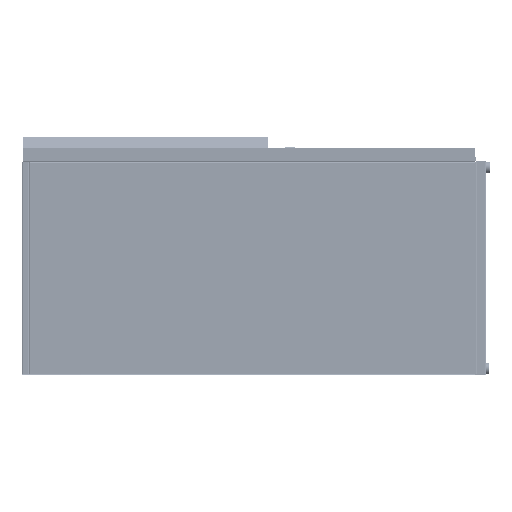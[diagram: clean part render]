
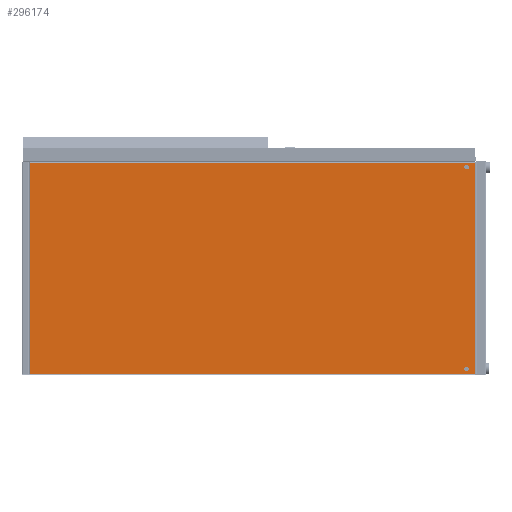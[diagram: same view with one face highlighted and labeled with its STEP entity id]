
A CAD part, left-side view. The second image highlights one B-rep face of the part: STEP entity #296174.
In plain terms, the highlighted planar face has unit normal (-1, 0, 0).
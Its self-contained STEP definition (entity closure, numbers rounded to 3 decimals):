
#771 = VERTEX_POINT ( 'NONE', #401618 ) ;
#14239 = DIRECTION ( 'NONE',  ( 0., 0., -1. ) ) ;
#26931 = EDGE_CURVE ( 'NONE', #771, #320214, #269296, .T. ) ;
#34646 = DIRECTION ( 'NONE',  ( 0., -1., 0. ) ) ;
#36312 = CARTESIAN_POINT ( 'NONE',  ( -1053.027, 1630.523, 473.295 ) ) ;
#38503 = DIRECTION ( 'NONE',  ( 0., 1., 0. ) ) ;
#43176 = VERTEX_POINT ( 'NONE', #341922 ) ;
#48869 = DIRECTION ( 'NONE',  ( -1., 0., 0. ) ) ;
#49767 = CIRCLE ( 'NONE', #129027, 6.55 ) ;
#54521 = EDGE_CURVE ( 'NONE', #354659, #310851, #199967, .T. ) ;
#58040 = DIRECTION ( 'NONE',  ( 0., 0., 1. ) ) ;
#94096 = VECTOR ( 'NONE', #34646, 1000. ) ;
#122165 = CARTESIAN_POINT ( 'NONE',  ( -1053.027, 396.823, 486.495 ) ) ;
#128001 = DIRECTION ( 'NONE',  ( 0., 0., 1. ) ) ;
#129027 = AXIS2_PLACEMENT_3D ( 'NONE', #122165, #389287, #461114 ) ;
#129944 = FACE_BOUND ( 'NONE', #438579, .T. ) ;
#136127 = EDGE_LOOP ( 'NONE', ( #321112, #176396 ) ) ;
#136233 = CARTESIAN_POINT ( 'NONE',  ( -1053.027, 396.823, 1056.495 ) ) ;
#139687 = FACE_OUTER_BOUND ( 'NONE', #335274, .T. ) ;
#140646 = VERTEX_POINT ( 'NONE', #302968 ) ;
#158798 = ORIENTED_EDGE ( 'NONE', *, *, #424468, .F. ) ;
#163145 = ORIENTED_EDGE ( 'NONE', *, *, #54521, .F. ) ;
#168041 = VERTEX_POINT ( 'NONE', #341194 ) ;
#176396 = ORIENTED_EDGE ( 'NONE', *, *, #291009, .F. ) ;
#176974 = PLANE ( 'NONE',  #342877 ) ;
#179052 = AXIS2_PLACEMENT_3D ( 'NONE', #313771, #48869, #385474 ) ;
#186233 = EDGE_CURVE ( 'NONE', #320214, #354659, #342965, .T. ) ;
#189078 = ORIENTED_EDGE ( 'NONE', *, *, #286015, .F. ) ;
#198062 = AXIS2_PLACEMENT_3D ( 'NONE', #136233, #482461, #321957 ) ;
#199967 = LINE ( 'NONE', #353106, #266159 ) ;
#223006 = LINE ( 'NONE', #376071, #94096 ) ;
#234094 = CIRCLE ( 'NONE', #179052, 6.55 ) ;
#239596 = CARTESIAN_POINT ( 'NONE',  ( -1053.027, 373.623, 1070.453 ) ) ;
#261244 = ORIENTED_EDGE ( 'NONE', *, *, #186233, .F. ) ;
#263178 = VERTEX_POINT ( 'NONE', #405448 ) ;
#266159 = VECTOR ( 'NONE', #128001, 1000. ) ;
#266577 = VECTOR ( 'NONE', #14239, 1000. ) ;
#269296 = LINE ( 'NONE', #239596, #266577 ) ;
#286015 = EDGE_CURVE ( 'NONE', #263178, #43176, #234094, .T. ) ;
#290711 = CARTESIAN_POINT ( 'NONE',  ( -1053.027, 1002.073, 771.495 ) ) ;
#291009 = EDGE_CURVE ( 'NONE', #140646, #168041, #417591, .T. ) ;
#293988 = DIRECTION ( 'NONE',  ( -1., 0., 0. ) ) ;
#296174 = ADVANCED_FACE ( 'NONE', ( #129944, #320502, #139687 ), #176974, .T. ) ;
#299422 = AXIS2_PLACEMENT_3D ( 'NONE', #489110, #293988, #333528 ) ;
#302968 = CARTESIAN_POINT ( 'NONE',  ( -1053.027, 396.823, 1063.045 ) ) ;
#309778 = ORIENTED_EDGE ( 'NONE', *, *, #26931, .F. ) ;
#310851 = VERTEX_POINT ( 'NONE', #328424 ) ;
#313771 = CARTESIAN_POINT ( 'NONE',  ( -1053.027, 396.823, 486.495 ) ) ;
#320214 = VERTEX_POINT ( 'NONE', #375247 ) ;
#320502 = FACE_BOUND ( 'NONE', #136127, .T. ) ;
#321112 = ORIENTED_EDGE ( 'NONE', *, *, #429300, .F. ) ;
#321957 = DIRECTION ( 'NONE',  ( 0., 0., 1. ) ) ;
#328424 = CARTESIAN_POINT ( 'NONE',  ( -1053.027, 1630.523, 1069.695 ) ) ;
#333528 = DIRECTION ( 'NONE',  ( 0., 0., 1. ) ) ;
#335274 = EDGE_LOOP ( 'NONE', ( #158798, #163145, #261244, #309778 ) ) ;
#336018 = EDGE_CURVE ( 'NONE', #43176, #263178, #49767, .T. ) ;
#341194 = CARTESIAN_POINT ( 'NONE',  ( -1053.027, 396.823, 1049.945 ) ) ;
#341922 = CARTESIAN_POINT ( 'NONE',  ( -1053.027, 396.823, 479.945 ) ) ;
#342877 = AXIS2_PLACEMENT_3D ( 'NONE', #290711, #441467, #58040 ) ;
#342965 = LINE ( 'NONE', #377504, #437318 ) ;
#353106 = CARTESIAN_POINT ( 'NONE',  ( -1053.027, 1630.523, 472.536 ) ) ;
#354659 = VERTEX_POINT ( 'NONE', #36312 ) ;
#375247 = CARTESIAN_POINT ( 'NONE',  ( -1053.027, 373.623, 473.295 ) ) ;
#376071 = CARTESIAN_POINT ( 'NONE',  ( -1053.027, 1631.282, 1069.695 ) ) ;
#377504 = CARTESIAN_POINT ( 'NONE',  ( -1053.027, 372.865, 473.295 ) ) ;
#385474 = DIRECTION ( 'NONE',  ( 0., 0., 1. ) ) ;
#389287 = DIRECTION ( 'NONE',  ( -1., 0., 0. ) ) ;
#401618 = CARTESIAN_POINT ( 'NONE',  ( -1053.027, 373.623, 1069.695 ) ) ;
#405448 = CARTESIAN_POINT ( 'NONE',  ( -1053.027, 396.823, 493.045 ) ) ;
#410911 = ORIENTED_EDGE ( 'NONE', *, *, #336018, .F. ) ;
#411177 = CIRCLE ( 'NONE', #198062, 6.55 ) ;
#417591 = CIRCLE ( 'NONE', #299422, 6.55 ) ;
#424468 = EDGE_CURVE ( 'NONE', #310851, #771, #223006, .T. ) ;
#429300 = EDGE_CURVE ( 'NONE', #168041, #140646, #411177, .T. ) ;
#437318 = VECTOR ( 'NONE', #38503, 1000. ) ;
#438579 = EDGE_LOOP ( 'NONE', ( #410911, #189078 ) ) ;
#441467 = DIRECTION ( 'NONE',  ( -1., 0., 0. ) ) ;
#461114 = DIRECTION ( 'NONE',  ( 0., 0., 1. ) ) ;
#482461 = DIRECTION ( 'NONE',  ( -1., 0., 0. ) ) ;
#489110 = CARTESIAN_POINT ( 'NONE',  ( -1053.027, 396.823, 1056.495 ) ) ;
